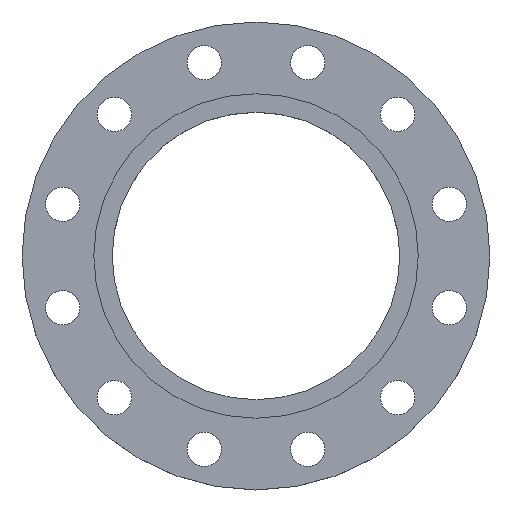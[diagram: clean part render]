
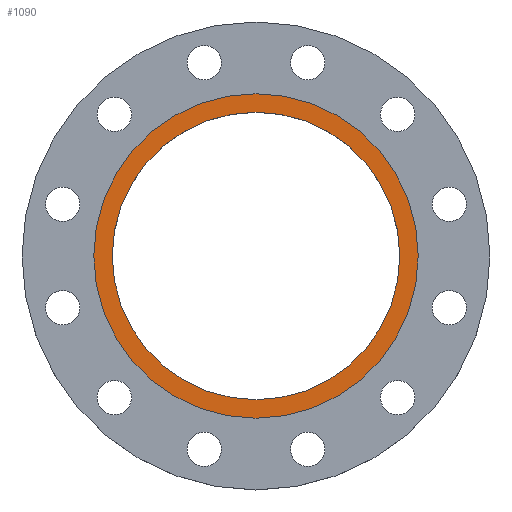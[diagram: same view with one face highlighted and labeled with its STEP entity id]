
A CAD part, top view. The second image highlights one B-rep face of the part: STEP entity #1090.
In plain terms, the highlighted planar face has unit normal (0, 0, 1).
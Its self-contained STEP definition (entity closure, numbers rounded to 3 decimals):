
#23 = EDGE_CURVE ( 'NONE', #807, #1221, #891, .T. ) ;
#83 = AXIS2_PLACEMENT_3D ( 'NONE', #206, #204, #203 ) ;
#87 = CIRCLE ( 'NONE', #83, 156. ) ;
#100 = CARTESIAN_POINT ( 'NONE',  ( -138.25, 0., 0. ) ) ;
#203 = DIRECTION ( 'NONE',  ( -1., 0., 0. ) ) ;
#204 = DIRECTION ( 'NONE',  ( 0., 0., -1. ) ) ;
#206 = CARTESIAN_POINT ( 'NONE',  ( 0., 0., 0. ) ) ;
#223 = CARTESIAN_POINT ( 'NONE',  ( -156., 0., 0. ) ) ;
#255 = DIRECTION ( 'NONE',  ( 1., 0., 0. ) ) ;
#256 = DIRECTION ( 'NONE',  ( 0., 0., 1. ) ) ;
#257 = CARTESIAN_POINT ( 'NONE',  ( 0., 0., 0. ) ) ;
#270 = DIRECTION ( 'NONE',  ( -1., 0., 0. ) ) ;
#273 = DIRECTION ( 'NONE',  ( 0., 0., -1. ) ) ;
#274 = CARTESIAN_POINT ( 'NONE',  ( 0., 0., 0. ) ) ;
#338 = AXIS2_PLACEMENT_3D ( 'NONE', #274, #273, #270 ) ;
#346 = DIRECTION ( 'NONE',  ( 1., 0., 0. ) ) ;
#348 = DIRECTION ( 'NONE',  ( 0., 0., 1. ) ) ;
#349 = CARTESIAN_POINT ( 'NONE',  ( 0., 0., 0. ) ) ;
#350 = PLANE ( 'NONE',  #897 ) ;
#352 = FACE_OUTER_BOUND ( 'NONE', #791, .T. ) ;
#354 = FACE_BOUND ( 'NONE', #829, .T. ) ;
#384 = AXIS2_PLACEMENT_3D ( 'NONE', #257, #256, #255 ) ;
#386 = CIRCLE ( 'NONE', #384, 138.25 ) ;
#390 = CIRCLE ( 'NONE', #338, 156. ) ;
#407 = CARTESIAN_POINT ( 'NONE',  ( 156., 0., 0. ) ) ;
#559 = CARTESIAN_POINT ( 'NONE',  ( 138.25, 0., 0. ) ) ;
#791 = EDGE_LOOP ( 'NONE', ( #1020, #1023 ) ) ;
#807 = VERTEX_POINT ( 'NONE', #559 ) ;
#829 = EDGE_LOOP ( 'NONE', ( #1018, #1019 ) ) ;
#854 = DIRECTION ( 'NONE',  ( 1., 0., 0. ) ) ;
#883 = AXIS2_PLACEMENT_3D ( 'NONE', #1145, #1138, #854 ) ;
#891 = CIRCLE ( 'NONE', #883, 138.25 ) ;
#897 = AXIS2_PLACEMENT_3D ( 'NONE', #349, #348, #346 ) ;
#994 = VERTEX_POINT ( 'NONE', #407 ) ;
#1018 = ORIENTED_EDGE ( 'NONE', *, *, #23, .F. ) ;
#1019 = ORIENTED_EDGE ( 'NONE', *, *, #1159, .F. ) ;
#1020 = ORIENTED_EDGE ( 'NONE', *, *, #1183, .F. ) ;
#1023 = ORIENTED_EDGE ( 'NONE', *, *, #1155, .F. ) ;
#1090 = ADVANCED_FACE ( 'NONE', ( #354, #352 ), #350, .T. ) ;
#1138 = DIRECTION ( 'NONE',  ( 0., 0., 1. ) ) ;
#1145 = CARTESIAN_POINT ( 'NONE',  ( 0., 0., 0. ) ) ;
#1155 = EDGE_CURVE ( 'NONE', #994, #1172, #390, .T. ) ;
#1159 = EDGE_CURVE ( 'NONE', #1221, #807, #386, .T. ) ;
#1172 = VERTEX_POINT ( 'NONE', #223 ) ;
#1183 = EDGE_CURVE ( 'NONE', #1172, #994, #87, .T. ) ;
#1221 = VERTEX_POINT ( 'NONE', #100 ) ;
